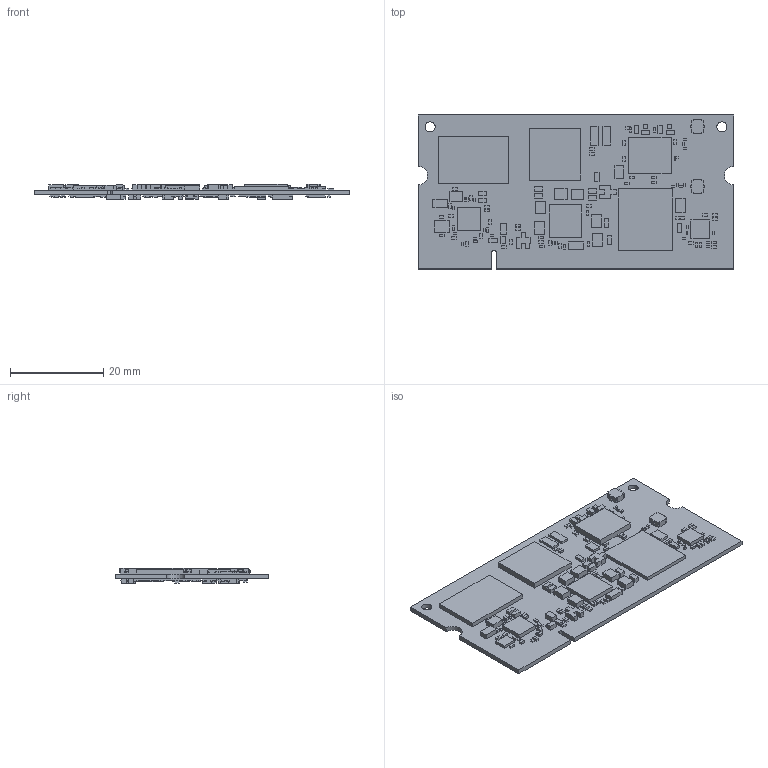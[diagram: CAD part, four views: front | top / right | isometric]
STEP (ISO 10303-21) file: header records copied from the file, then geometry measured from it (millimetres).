
FILE_DESCRIPTION(/* description */ (''),/* implementation_level */ '2;1');
FILE_NAME(/* name */ 'VAR-SOM-MX91 v1.step',/* time_stamp */ '2025-04-06T12:00:49+03:00',/* author */ (''),/* organization */ (''),/* preprocessor_version */ 'ST-DEVELOPER v20.1',/* originating_system */ 'Autodesk Translation Framework v14.4.0.0',/* authorisation */ '');
FILE_SCHEMA (('AUTOMOTIVE_DESIGN { 1 0 10303 214 3 1 1 }'));
Length unit declared in the file: millimetre
Products named in the file (308): VAR-SOM-MX91; Pcb; Electrical; C53; C58; C115; C54; C96; C87; C55; C41; C33; C132; C38; C48; C45; C46; C42; C130; C124; C153; C47; C147; C88; C3; C118; C85; C163; C119; C155; C164; C170; C171; C173; C172; C176; C177; C178; C179; C121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
Assembly tree (307 placements, depth 3):
  VAR-SOM-MX91
    Pcb
    Electrical
      C53
      C58
      C115
      C54
      C96
      C87
      C55
      C41
      C33
      C132
      C38
      C48
      C45
      C46
      C42
      C130
      C124
      C153
      C47
      C147
      C88
      C3
      C118
      C85
      C163
      C119
      C155
      C164
      C170
      C171
      C173
      C172
      C176
      C177
      C178
      C179
      C121
      C122
      C145
      C22
      C146
      C174
      C25
      C32
      C129
      C31
      C180
      C175
      R31
      R32
      R44
      R40
      R37
      R21
      R7
      R62
      R42
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Bounding box: 67.6 x 32.99 x 3.41 mm (x, y, z)
Volume: 3110.7 mm3; surface area: 7410.7 mm2
Topology: 303 solids, 303 shells, 1916 faces, 3921 edges, 2614 vertices
Faces by surface type: plane 1910, cylinder 6
Full cylindrical faces by diameter (mm): 2.159 x2
Entity records: 59145 total; most frequent: CARTESIAN_POINT 9066, DIRECTION 8995, ORIENTED_EDGE 7842, EDGE_CURVE 3921, LINE 3909, VECTOR 3909, VERTEX_POINT 2614, AXIS2_PLACEMENT_3D 2543
